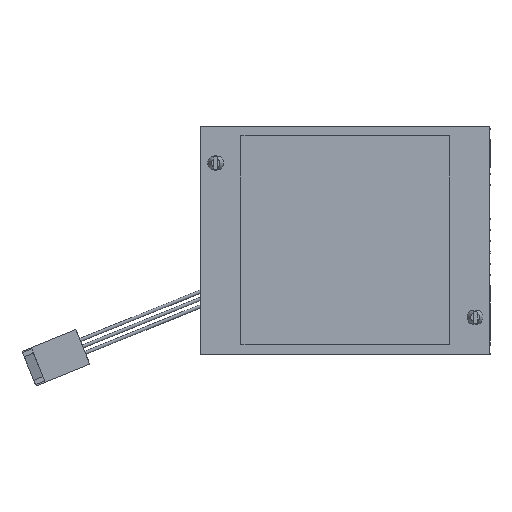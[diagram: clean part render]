
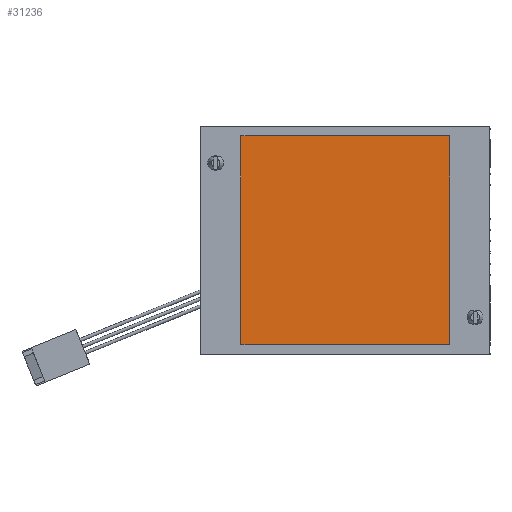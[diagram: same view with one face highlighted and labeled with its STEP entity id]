
A CAD part, front view. The second image highlights one B-rep face of the part: STEP entity #31236.
In plain terms, the highlighted planar face has unit normal (0, -1, 0).
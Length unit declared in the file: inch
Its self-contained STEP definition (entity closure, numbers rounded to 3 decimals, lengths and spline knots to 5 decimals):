
#1672 = VERTEX_POINT ( 'NONE', #52593 ) ;
#2793 = CARTESIAN_POINT ( 'NONE',  ( -0.89998, -0.00512, 0.89992 ) ) ;
#3783 = CARTESIAN_POINT ( 'NONE',  ( 0.90002, -0.00512, 0.89992 ) ) ;
#3836 = VERTEX_POINT ( 'NONE', #36557 ) ;
#4110 = CARTESIAN_POINT ( 'NONE',  ( 0.90002, -0.00512, -0.90008 ) ) ;
#4305 = EDGE_LOOP ( 'NONE', ( #7297, #18288, #36806, #56653 ) ) ;
#4597 = DIRECTION ( 'NONE',  ( 0., 1., 0. ) ) ;
#7142 = PLANE ( 'NONE',  #9686 ) ;
#7297 = ORIENTED_EDGE ( 'NONE', *, *, #49255, .F. ) ;
#7308 = VECTOR ( 'NONE', #8754, 39.37008 ) ;
#8754 = DIRECTION ( 'NONE',  ( 1., 0., 0. ) ) ;
#9686 = AXIS2_PLACEMENT_3D ( 'NONE', #51965, #4597, #32364 ) ;
#10313 = EDGE_CURVE ( 'NONE', #22452, #50775, #52362, .T. ) ;
#14780 = EDGE_CURVE ( 'NONE', #3836, #1672, #41203, .T. ) ;
#14899 = EDGE_CURVE ( 'NONE', #1672, #22452, #45857, .T. ) ;
#17449 = LINE ( 'NONE', #2793, #38283 ) ;
#18288 = ORIENTED_EDGE ( 'NONE', *, *, #10313, .F. ) ;
#22452 = VERTEX_POINT ( 'NONE', #50941 ) ;
#22792 = CARTESIAN_POINT ( 'NONE',  ( 0.90002, -0.00512, 0.89992 ) ) ;
#22849 = CARTESIAN_POINT ( 'NONE',  ( -0.89998, -0.00512, -0.90008 ) ) ;
#26934 = VECTOR ( 'NONE', #37453, 39.37008 ) ;
#31236 = ADVANCED_FACE ( 'NONE', ( #31757 ), #7142, .F. ) ;
#31757 = FACE_OUTER_BOUND ( 'NONE', #4305, .T. ) ;
#32364 = DIRECTION ( 'NONE',  ( 0., 0., 1. ) ) ;
#36557 = CARTESIAN_POINT ( 'NONE',  ( -0.89998, -0.00512, 0.89992 ) ) ;
#36755 = DIRECTION ( 'NONE',  ( 0., 0., 1. ) ) ;
#36806 = ORIENTED_EDGE ( 'NONE', *, *, #14899, .F. ) ;
#37453 = DIRECTION ( 'NONE',  ( -1., 0., 0. ) ) ;
#38283 = VECTOR ( 'NONE', #36755, 39.37008 ) ;
#41203 = LINE ( 'NONE', #22792, #7308 ) ;
#45857 = LINE ( 'NONE', #3783, #56064 ) ;
#46747 = DIRECTION ( 'NONE',  ( 0., 0., -1. ) ) ;
#49255 = EDGE_CURVE ( 'NONE', #50775, #3836, #17449, .T. ) ;
#50775 = VERTEX_POINT ( 'NONE', #22849 ) ;
#50941 = CARTESIAN_POINT ( 'NONE',  ( 0.90002, -0.00512, -0.90008 ) ) ;
#51965 = CARTESIAN_POINT ( 'NONE',  ( 0.00002, -0.00512, -0.00008 ) ) ;
#52362 = LINE ( 'NONE', #4110, #26934 ) ;
#52593 = CARTESIAN_POINT ( 'NONE',  ( 0.90002, -0.00512, 0.89992 ) ) ;
#56064 = VECTOR ( 'NONE', #46747, 39.37008 ) ;
#56653 = ORIENTED_EDGE ( 'NONE', *, *, #14780, .F. ) ;
